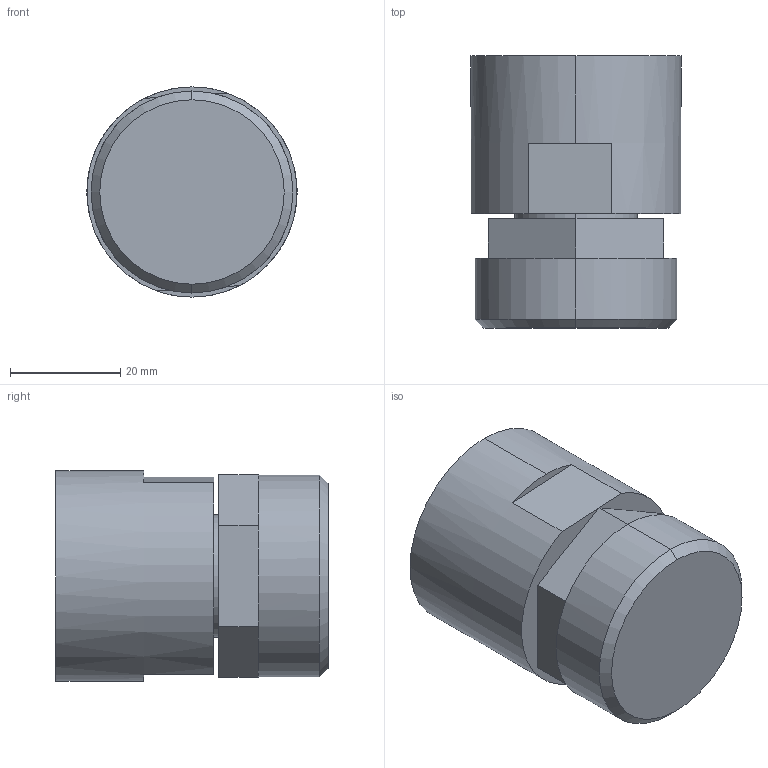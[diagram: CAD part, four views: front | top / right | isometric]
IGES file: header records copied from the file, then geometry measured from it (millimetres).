
Start section: SolidWorks IGES file using analytic representation for surfaces
Global section: file name: S:\Product Visuals\REVISED-30L-TOP-MOUNT-FITTINGS\IGS\top-straight-outlet-only\fnpt\12-fnpt-with-top-mount-adapter.IGS; native system: SolidWorks 2012; preprocessor: SolidWorks 2012; author: rachel.dressel; date: 121127.154726; units: inch
Bounding box: 38.1 x 49.33 x 38.1 mm (x, y, z)
Volume: 43811.7 mm3; surface area: 11472.4 mm2
Topology: 2 solids, 2 shells, 39 faces, 84 edges, 52 vertices
Faces by surface type: plane 29, revolution 10
